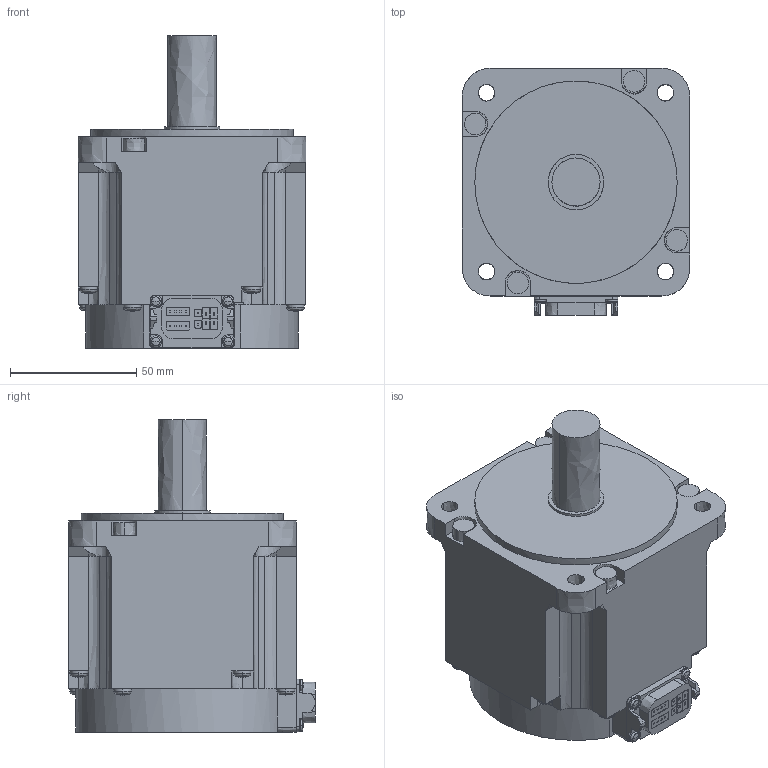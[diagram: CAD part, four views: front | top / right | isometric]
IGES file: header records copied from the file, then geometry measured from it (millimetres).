
Start section:  PTC IGES file: hk-kt7m3uw_.igs
Global section: file name: hk-kt7m3uw_.igs; native system: Creo Parametric by PTC Inc.; preprocessor: 2016380; author: XE90682; organization: Unknown; date: 20190118.112047; units: millimetre
Bounding box: 90 x 97.65 x 123.5 mm (x, y, z)
Volume: 600780.3 mm3; surface area: 48989.1 mm2
Topology: 1 solids, 1 shells, 397 faces, 1028 edges, 652 vertices
Faces by surface type: bspline 397
